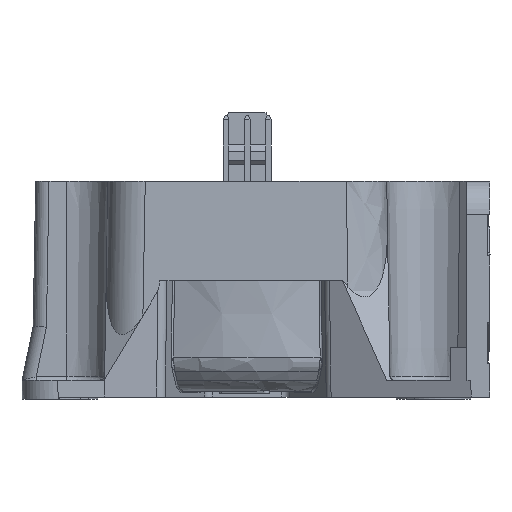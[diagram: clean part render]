
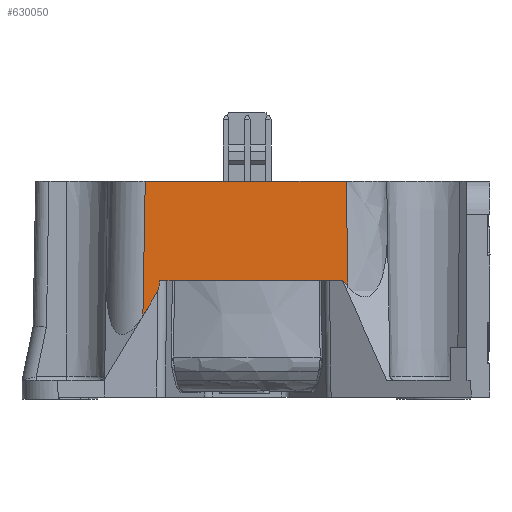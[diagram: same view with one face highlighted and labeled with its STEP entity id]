
A CAD part, left-side view. The second image highlights one B-rep face of the part: STEP entity #630050.
In plain terms, the highlighted planar face has unit normal (-1, 0, 0.018).
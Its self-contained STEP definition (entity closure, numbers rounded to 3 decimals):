
#37360=CARTESIAN_POINT('',(-26.309,-11.497,4.1));
#37370=VERTEX_POINT('',#37360);
#37400=CARTESIAN_POINT('',(-26.554,-23.837,
-9.931));
#37410=DIRECTION('',(-0.013,-0.66,
-0.751));
#37420=VECTOR('',#37410,1.);
#37430=LINE('',#37400,#37420);
#37440=CARTESIAN_POINT('',(-26.323,-12.156,
3.35));
#37450=VERTEX_POINT('',#37440);
#37460=EDGE_CURVE('',#37370,#37450,#37430,.T.);
#42030=CARTESIAN_POINT('',(-26.014,-11.87,
20.999));
#42040=CARTESIAN_POINT('',(-26.098,-11.946,
16.236));
#42050=CARTESIAN_POINT('',(-26.181,-12.023,
11.473));
#42060=CARTESIAN_POINT('',(-26.312,-12.146,
3.957));
#42070=CARTESIAN_POINT('',(-26.36,-12.192,
1.204));
#42080=CARTESIAN_POINT('',(-26.408,-12.237,
-1.548));
#42090=B_SPLINE_CURVE_WITH_KNOTS('',3,(#42030,#42040,#42050,#42060,
#42070,#42080),.UNSPECIFIED.,.F.,.F.,(4,2,4),(64.244,
78.537,86.797),.UNSPECIFIED.);
#42100=CARTESIAN_POINT('',(-26.1,-11.949,16.1));
#42110=VERTEX_POINT('',#42100);
#42120=EDGE_CURVE('',#42110,#37450,#42090,.T.);
#462940=CARTESIAN_POINT('',(-26.1,0.,16.1)
);
#462950=DIRECTION('',(0.,1.,0.));
#462960=VECTOR('',#462950,1.);
#462970=LINE('',#462940,#462960);
#462980=CARTESIAN_POINT('',(-26.1,12.31,16.1));
#462990=VERTEX_POINT('',#462980);
#463000=EDGE_CURVE('',#42110,#462990,#462970,.T.);
#629440=CARTESIAN_POINT('',(-26.361,11.801,
1.162));
#629450=VERTEX_POINT('',#629440);
#629480=CARTESIAN_POINT('',(-26.416,13.582,
-1.978));
#629490=DIRECTION('',(-0.015,0.493,
-0.87));
#629500=VECTOR('',#629490,1.);
#629510=LINE('',#629480,#629500);
#629520=CARTESIAN_POINT('',(-26.329,10.784,
2.955));
#629530=VERTEX_POINT('',#629520);
#629540=EDGE_CURVE('',#629530,#629450,#629510,.T.);
#629650=CARTESIAN_POINT('',(-26.1,-20.096,16.1));
#629660=DIRECTION('',(1.,0.,
-0.017));
#629670=DIRECTION('',(0.,-1.,-0.));
#629680=AXIS2_PLACEMENT_3D('',#629650,#629660,#629670);
#629690=PLANE('',#629680);
#629700=ORIENTED_EDGE('',*,*,#463000,.T.);
#629710=ORIENTED_EDGE('',*,*,#42120,.F.);
#629720=ORIENTED_EDGE('',*,*,#37460,.T.);
#629730=CARTESIAN_POINT('',(-26.309,-20.177,
4.1));
#629740=DIRECTION('',(0.,1.,0.));
#629750=VECTOR('',#629740,1.);
#629760=LINE('',#629730,#629750);
#629770=CARTESIAN_POINT('',(-26.309,10.531,4.1));
#629780=VERTEX_POINT('',#629770);
#629790=EDGE_CURVE('',#37370,#629780,#629760,.T.);
#629800=ORIENTED_EDGE('',*,*,#629790,.F.);
#629810=CARTESIAN_POINT('',(-25.714,10.411,
38.208));
#629820=DIRECTION('',(1.,0.,
-0.017));
#629830=DIRECTION('',(-0.017,0.013,
-1.));
#629840=AXIS2_PLACEMENT_3D('',#629810,#629820,#629830);
#629850=ELLIPSE('',#629840,35.327,1.2);
#629860=EDGE_CURVE('',#629780,#629530,#629850,.T.);
#629870=ORIENTED_EDGE('',*,*,#629860,.F.);
#629880=ORIENTED_EDGE('',*,*,#629540,.F.);
#629890=CARTESIAN_POINT('',(-26.415,13.691,
-1.959));
#629900=DIRECTION('',(0.015,-0.518,
0.855));
#629910=VECTOR('',#629900,1.);
#629920=LINE('',#629890,#629910);
#629930=CARTESIAN_POINT('',(-26.384,12.594,
-0.147));
#629940=VERTEX_POINT('',#629930);
#629950=EDGE_CURVE('',#629940,#629450,#629920,.T.);
#629960=ORIENTED_EDGE('',*,*,#629950,.T.);
#629970=CARTESIAN_POINT('',(-26.099,12.309,
16.179));
#629980=DIRECTION('',(0.017,-0.017,
1.));
#629990=VECTOR('',#629980,1.);
#630000=LINE('',#629970,#629990);
#630010=EDGE_CURVE('',#629940,#462990,#630000,.T.);
#630020=ORIENTED_EDGE('',*,*,#630010,.F.);
#630030=EDGE_LOOP('',(#630020,#629960,#629880,#629870,#629800,#629720,
#629710,#629700));
#630040=FACE_OUTER_BOUND('',#630030,.T.);
#630050=ADVANCED_FACE('',(#630040),#629690,.F.);
